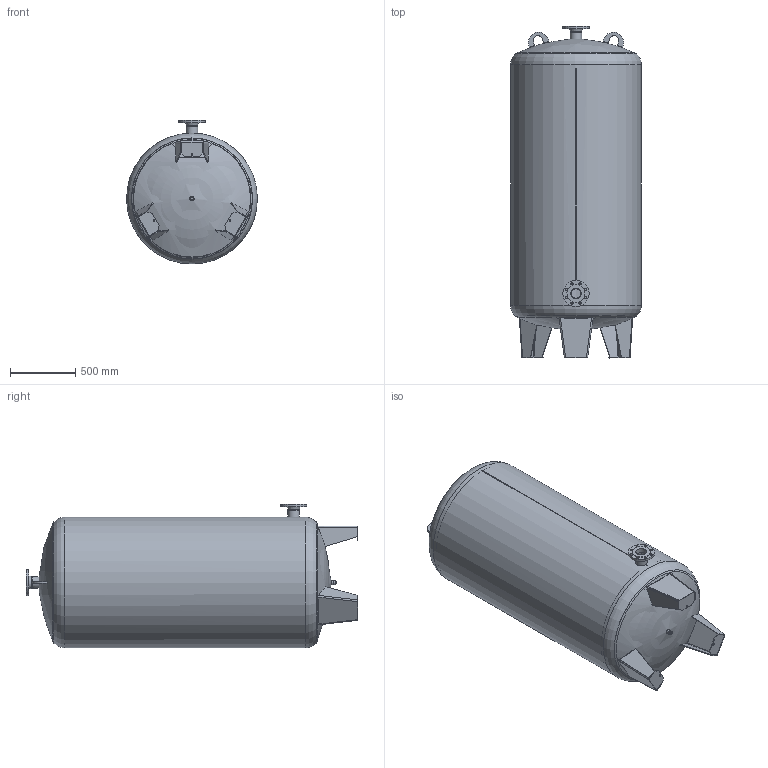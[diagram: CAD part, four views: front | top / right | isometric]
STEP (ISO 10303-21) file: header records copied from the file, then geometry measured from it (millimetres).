
FILE_DESCRIPTION((''),'2;1');
FILE_NAME('C:\Vault\Inventor\Expansion\elko-mat\EV\EV 1500\EV1500-10-110.stp','2012-06-11T14:40:15',('Walder'),(''),'Autodesk Inventor 11','Autodesk Inventor 11','');
FILE_SCHEMA(('AUTOMOTIVE_DESIGN { 1 0 10303 214 1 1 1 1 }'));
Length unit declared in the file: millimetre
Products named in the file (1): EV1500-10-110
Bounding box: 999.99 x 2537.03 x 1100 mm (x, y, z)
Volume: 53955055.6 mm3; surface area: 16563978.8 mm2
Topology: 6 solids, 6 shells, 206 faces, 534 edges, 348 vertices
Faces by surface type: plane 98, cylinder 58, bspline 37, torus 6, cone 5, sphere 2
Full cylindrical faces by diameter (mm): 18 x16, 20.96 x1, 24.117 x2, 32 x1, 80 x1, 82.5 x2, 88.9 x2, 138 x2, 200 x2, 984 x2, 1000 x1
Entity records: 9645 total; most frequent: CARTESIAN_POINT 4913, ORIENTED_EDGE 946, DIRECTION 873, EDGE_CURVE 473, VERTEX_POINT 339, AXIS2_PLACEMENT_3D 325, EDGE_LOOP 325, VECTOR 223
